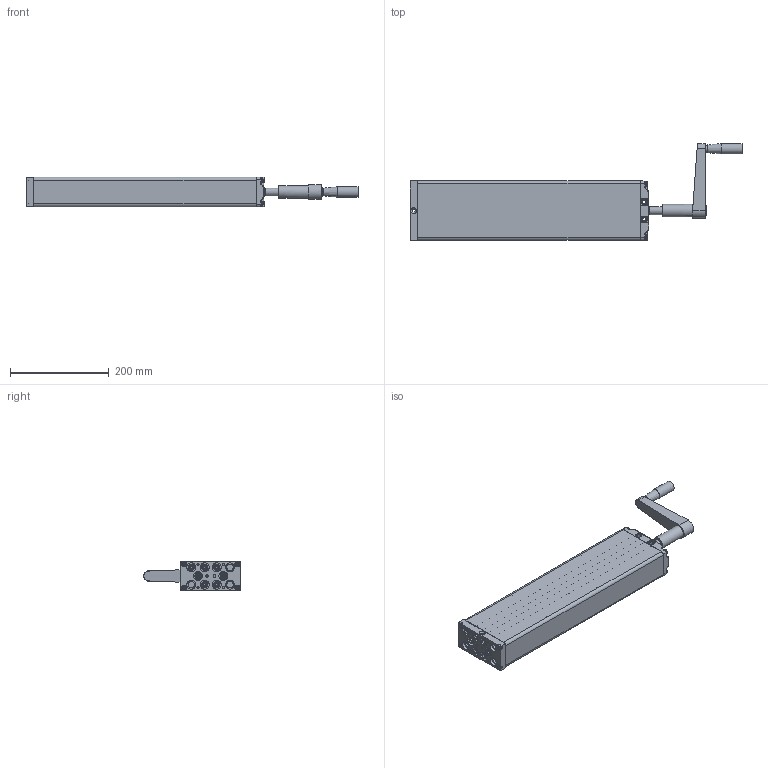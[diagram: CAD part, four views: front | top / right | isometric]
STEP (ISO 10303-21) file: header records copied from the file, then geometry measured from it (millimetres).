
FILE_DESCRIPTION(/* description */ ('Unknown'),/* implementation_level */ '2;1');
FILE_NAME(/* name */ '312.20210 Pumpe PB 7830 W mit Handkurbel',/* time_stamp */ '2016-11-25T10:42:01+01:00',/* author */ ('Unknown'),/* organization */ ('Unknown'),/* preprocessor_version */ 'ST-DEVELOPER v16.7',/* originating_system */ 'DEX',/* authorisation */ $);
FILE_SCHEMA (('AUTOMOTIVE_DESIGN {1 0 10303 214 3 1 1}'));
Products named in the file (23): 102.00210; 115.10033; 125.00061; 115.00008; 142.00021; 125.00021; 113.00005; 128.00001; 125.00052; 126.00013; 125.00053; 127.00014; Handgriff; 142.00013; 125.00143; 115.00140; 126.00006; 122.00040; 119.00043; 126.00036; 142.00057; 142.00083; 142.00017
Assembly tree (39 placements, depth 3):
  102.00210
    115.10033  x7
      125.00061
      115.00008
      142.00021
      125.00021
    113.00005
      128.00001
      125.00052
      126.00013
      125.00053
      127.00014
      Handgriff
    142.00013  x8
    125.00143
    115.00140
      126.00006
      122.00040
    119.00043
    126.00036
    142.00057
    142.00083  x4
    142.00017  x2
Bounding box: 670.75 x 195.5 x 60.3 mm (x, y, z)
Volume: 785152.4 mm3; surface area: 478507.1 mm2
Topology: 47 solids, 47 shells, 2184 faces, 4963 edges, 2903 vertices
Faces by surface type: plane 791, cylinder 497, bspline 380, cone 351, torus 108, sphere 57
Full cylindrical faces by diameter (mm): 3.5 x7, 4 x2, 4.1 x7, 4.134 x4, 4.2 x8, 4.917 x4, 5 x12, 5.8 x4, 6 x2, 6.8 x1, 6.917 x14, 8 x16, 8.5 x4, 9.8 x8, 10 x6, 10.4 x1, 10.5 x4, 12.5 x7, 12.8 x1, 13 x25, 14 x1, 14.4 x7, 16 x2, 17 x1, 17.9 x14, 18 x11, 19 x1, 20.6 x1, 21 x1, 22 x1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
Entity records: 64061 total; most frequent: CARTESIAN_POINT 30506, ORIENTED_EDGE 5368, DIRECTION 4817, EDGE_CURVE 2684, AXIS2_PLACEMENT_3D 1875, VERTEX_POINT 1709, FACE_BOUND 1541, EDGE_LOOP 1538
